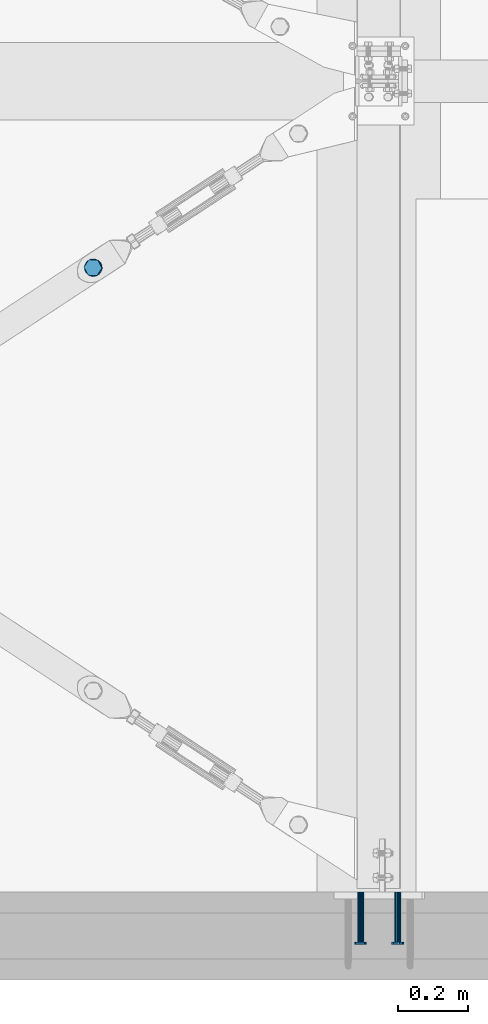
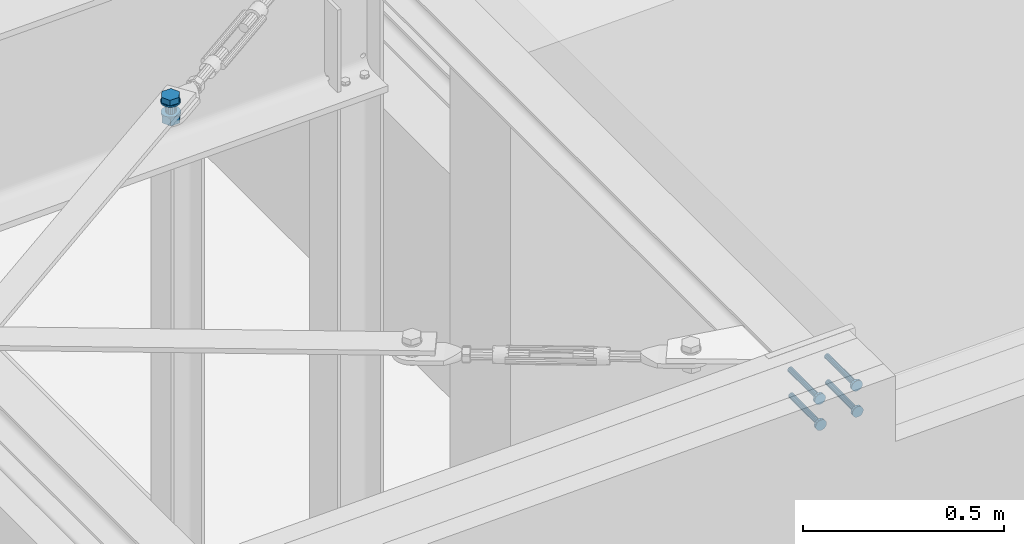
# One storey, part 138 of 476: 5 mechanical fasteners.
"""IFC2X3 building model written with IfcOpenShell, lengths in millimetres."""

from ifc_helpers import new_model, entity, si_unit, converted_unit, origin_with_axes, place, context, project, spatial, faceted_brep, element, save


model = new_model("IFC2X3")

# Units and contexts
model_context = context("Model", 3, precision=1e-09, world=origin_with_axes())
ifc_project = project(units=[si_unit("LENGTHUNIT", "METRE", prefix="MILLI"), si_unit("AREAUNIT", "SQUARE_METRE"), si_unit("VOLUMEUNIT", "CUBIC_METRE"), converted_unit("PLANEANGLEUNIT", "DEGREE", entity("IfcPlaneAngleMeasure", 0.01745329), si_unit("PLANEANGLEUNIT", "RADIAN"), dimensions=[0, 0, 0, 0, 0, 0, 0])], contexts=[model_context])

# Site, building, storey
site_placement = place(None, origin_with_axes())
site = spatial("IfcSite", under=ifc_project, at=site_placement, Name="mKR Teilneubau & Sanierung BA1 - Ostfildern", CompositionType="ELEMENT")
building_placement = place(site_placement, origin_with_axes())
building = spatial("IfcBuilding", under=site, at=building_placement, Name="Struktur 1", CompositionType="ELEMENT")
storey_placement = place(building_placement, origin_with_axes())
storey = spatial("IfcBuildingStorey", under=building, at=storey_placement, Name="Default Storey", CompositionType="ELEMENT", Elevation=0.0)

# Mechanical fasteners
mechanical_fastener_1_placement = place(None, origin_with_axes())
element("IfcMechanicalFastener", 1, at=mechanical_fastener_1_placement, inside=storey, ObjectType="-", NominalDiameter=27.0, NominalLength=70.0, context=model_context, shape_type="Brep", body=[
    faceted_brep([(21174.404552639, -21769.505154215, 5625.311052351), (21174.554762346, -21769.505154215, 5620.313309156), (21176.827110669, -21765.163476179, 5620.381605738), (21176.676900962, -21765.163476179, 5625.379348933), (21178.209159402, -21760.461708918, 5620.423143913), (21178.058949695, -21760.461708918, 5625.420887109), (21178.647797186, -21755.580538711, 5620.436327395), (21178.497587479, -21755.580538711, 5625.43407059), (21178.126167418, -21750.707546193, 5620.420649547), (21177.975957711, -21750.707546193, 5625.418392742), (21176.664316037, -21746.029997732, 5620.376712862), (21176.51410633, -21746.029997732, 5625.374456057), (21174.318421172, -21741.727648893, 5620.306205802), (21174.168211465, -21741.727648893, 5625.303948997), (21171.178634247, -21737.965836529, 5620.211837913), (21171.02842454, -21737.965836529, 5625.209581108), (21167.365615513, -21734.889124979, 5620.0972357), (21167.215405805, -21734.889124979, 5625.094978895), (21163.02589714, -21732.615750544, 5619.966803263), (21162.875687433, -21732.615750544, 5624.964546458), (21158.326252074, -21731.233077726, 5619.825553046), (21158.176042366, -21731.233077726, 5624.823296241), (21153.447285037, -21730.794241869, 5619.678913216), (21153.297075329, -21730.794241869, 5624.676656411), (21148.576491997, -21731.316107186, 5619.53251906), (21148.42628229, -21731.316107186, 5624.530262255), (21143.901054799, -21732.778618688, 5619.391996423), (21143.750845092, -21732.778618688, 5624.389739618), (21139.600647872, -21735.125572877, 5619.262745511), (21139.450438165, -21735.125572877, 5624.260488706), (21135.840533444, -21738.266777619, 5619.149733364), (21135.690323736, -21738.266777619, 5624.14747656), (21132.765210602, -21742.081518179, 5619.057302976), (21132.615000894, -21742.081518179, 5624.055046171), (21130.492862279, -21746.423196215, 5618.989006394), (21130.342652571, -21746.423196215, 5623.98674959), (21129.110813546, -21751.124963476, 5618.947468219), (21128.960603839, -21751.124963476, 5623.945211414), (21128.672175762, -21756.006133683, 5618.934284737), (21128.521966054, -21756.006133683, 5623.932027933), (21129.19380553, -21760.879126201, 5618.949962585), (21129.043595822, -21760.879126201, 5623.94770578), (21130.655656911, -21765.556674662, 5618.99389927), (21130.505447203, -21765.556674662, 5623.991642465), (21133.001551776, -21769.859023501, 5619.06440633), (21132.851342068, -21769.859023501, 5624.062149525), (21136.141338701, -21773.620835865, 5619.158774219), (21135.991128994, -21773.620835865, 5624.156517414), (21139.954357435, -21776.697547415, 5619.273376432), (21139.804147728, -21776.697547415, 5624.271119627), (21144.294075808, -21778.97092185, 5619.403808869), (21144.1438661, -21778.97092185, 5624.401552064), (21148.993720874, -21780.353594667, 5619.545059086), (21148.843511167, -21780.353594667, 5624.542802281), (21153.872687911, -21780.792430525, 5619.691698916), (21153.722478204, -21780.792430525, 5624.689442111), (21158.743480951, -21780.270565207, 5619.838093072), (21158.593271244, -21780.270565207, 5624.835836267), (21163.418918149, -21778.808053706, 5619.978615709), (21163.268708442, -21778.808053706, 5624.976358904), (21167.719325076, -21776.461099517, 5620.107866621), (21167.569115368, -21776.461099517, 5625.105609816), (21171.479439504, -21773.319894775, 5620.220878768), (21171.329229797, -21773.319894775, 5625.218621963)], [[[0, 1, 2, 3]], [[3, 2, 4, 5]], [[5, 4, 6, 7]], [[7, 6, 8, 9]], [[9, 8, 10, 11]], [[11, 10, 12, 13]], [[13, 12, 14, 15]], [[15, 14, 16, 17]], [[17, 16, 18, 19]], [[19, 18, 20, 21]], [[21, 20, 22, 23]], [[23, 22, 24, 25]], [[25, 24, 26, 27]], [[27, 26, 28, 29]], [[29, 28, 30, 31]], [[31, 30, 32, 33]], [[33, 32, 34, 35]], [[35, 34, 36, 37]], [[37, 36, 38, 39]], [[39, 38, 40, 41]], [[41, 40, 42, 43]], [[43, 42, 44, 45]], [[45, 44, 46, 47]], [[47, 46, 48, 49]], [[49, 48, 50, 51]], [[51, 50, 52, 53]], [[53, 52, 54, 55]], [[55, 54, 56, 57]], [[57, 56, 58, 59]], [[59, 58, 60, 61]], [[61, 60, 62, 63]], [[63, 62, 1, 0]], [[0, 3, 5, 7, 9, 11, 13, 15, 17, 19, 21, 23, 25, 27, 29, 31, 33, 35, 37, 39, 41, 43, 45, 47, 49, 51, 53, 55, 57, 59, 61, 63]], [[1, 62, 60, 58, 56, 54, 52, 50, 48, 46, 44, 42, 40, 38, 36, 34, 32, 30, 28, 26, 24, 22, 20, 18, 16, 14, 12, 10, 8, 6, 4, 2]]]),
    faceted_brep([(21142.076060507, -21733.08689075, 5624.339403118), (21141.565347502, -21733.08689075, 5641.331729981), (21166.937688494, -21734.533753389, 5642.094308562), (21167.448401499, -21734.533753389, 5625.101981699), (21178.371404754, -21757.240198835, 5642.437954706), (21178.882117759, -21757.240198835, 5625.445627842), (21164.432780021, -21778.499781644, 5642.019022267), (21164.943493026, -21778.499781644, 5625.026695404), (21139.060439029, -21777.052919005, 5641.256443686), (21139.571152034, -21777.052919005, 5624.264116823), (21127.62672277, -21754.346473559, 5640.912797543), (21128.137435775, -21754.346473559, 5623.92047068)], [[[0, 1, 2, 3]], [[3, 2, 4, 5]], [[5, 4, 6, 7]], [[7, 6, 8, 9]], [[9, 8, 10, 11]], [[11, 10, 1, 0]], [[4, 2, 1, 10, 8, 6]], [[0, 3, 5, 7, 9, 11]]]),
    faceted_brep([(21164.943174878, -21763.197717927, 5620.024113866), (21165.844423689, -21763.197717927, 5590.037968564), (21167.817798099, -21758.314257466, 5590.097279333), (21166.916549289, -21758.314257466, 5620.083424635), (21167.772982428, -21753.047009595, 5590.095932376), (21166.871733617, -21753.047009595, 5620.082077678), (21165.716799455, -21748.197865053, 5590.034132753), (21164.815550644, -21748.197865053, 5620.020278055), (21161.962284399, -21744.505062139, 5589.921288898), (21161.061035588, -21744.505062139, 5619.9074342), (21157.081028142, -21742.530796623, 5589.774580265), (21156.179779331, -21742.530796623, 5619.760725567), (21151.8161577, -21742.575632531, 5589.616341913), (21150.91490889, -21742.575632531, 5619.602487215), (21146.969201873, -21744.632744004, 5589.470664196), (21146.067953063, -21744.632744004, 5619.456809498), (21143.278065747, -21748.388954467, 5589.359725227), (21142.376816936, -21748.388954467, 5619.345870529), (21141.304691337, -21753.272414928, 5589.300414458), (21140.403442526, -21753.272414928, 5619.28655976), (21141.349507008, -21758.539662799, 5589.301761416), (21140.448258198, -21758.539662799, 5619.287906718), (21143.405689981, -21763.388807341, 5589.363561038), (21142.50444117, -21763.388807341, 5619.34970634), (21147.160205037, -21767.081610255, 5589.476404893), (21146.258956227, -21767.081610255, 5619.462550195), (21152.041461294, -21769.055875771, 5589.623113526), (21151.140212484, -21769.055875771, 5619.609258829), (21157.306331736, -21769.011039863, 5589.781351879), (21156.405082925, -21769.011039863, 5619.767497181), (21162.153287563, -21766.95392839, 5589.927029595), (21161.252038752, -21766.95392839, 5619.913174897)], [[[0, 1, 2, 3]], [[3, 2, 4, 5]], [[5, 4, 6, 7]], [[7, 6, 8, 9]], [[9, 8, 10, 11]], [[11, 10, 12, 13]], [[13, 12, 14, 15]], [[15, 14, 16, 17]], [[17, 16, 18, 19]], [[19, 18, 20, 21]], [[21, 20, 22, 23]], [[23, 22, 24, 25]], [[25, 24, 26, 27]], [[27, 26, 28, 29]], [[29, 28, 30, 31]], [[31, 30, 1, 0]], [[0, 3, 5, 7, 9, 11, 13, 15, 17, 19, 21, 23, 25, 27, 29, 31]], [[1, 30, 28, 26, 24, 22, 20, 18, 16, 14, 12, 10, 8, 6, 4, 2]]]),
    faceted_brep([(21175.45602059, -21769.505154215, 5590.326849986), (21175.606230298, -21769.505154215, 5585.32910679), (21177.878578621, -21765.163476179, 5585.397403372), (21177.728368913, -21765.163476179, 5590.395146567), (21179.260627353, -21760.461708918, 5585.438941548), (21179.110417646, -21760.461708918, 5590.436684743), (21179.699265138, -21755.580538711, 5585.452125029), (21179.54905543, -21755.580538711, 5590.449868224), (21179.17763537, -21750.707546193, 5585.436447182), (21179.027425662, -21750.707546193, 5590.434190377), (21177.715783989, -21746.029997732, 5585.392510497), (21177.565574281, -21746.029997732, 5590.390253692), (21175.369889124, -21741.727648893, 5585.322003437), (21175.219679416, -21741.727648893, 5590.319746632), (21172.230102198, -21737.965836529, 5585.227635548), (21172.079892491, -21737.965836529, 5590.225378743), (21168.417083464, -21734.889124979, 5585.113033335), (21168.266873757, -21734.889124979, 5590.11077653), (21164.077365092, -21732.615750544, 5584.982600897), (21163.927155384, -21732.615750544, 5589.980344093), (21159.377720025, -21731.233077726, 5584.841350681), (21159.227510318, -21731.233077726, 5589.839093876), (21154.498752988, -21730.794241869, 5584.694710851), (21154.348543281, -21730.794241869, 5589.692454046), (21149.627959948, -21731.316107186, 5584.548316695), (21149.477750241, -21731.316107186, 5589.54605989), (21144.95252275, -21732.778618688, 5584.407794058), (21144.802313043, -21732.778618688, 5589.405537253), (21140.652115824, -21735.125572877, 5584.278543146), (21140.501906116, -21735.125572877, 5589.276286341), (21136.892001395, -21738.266777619, 5584.165530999), (21136.741791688, -21738.266777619, 5589.163274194), (21133.816678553, -21742.081518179, 5584.073100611), (21133.666468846, -21742.081518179, 5589.070843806), (21131.54433023, -21746.423196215, 5584.004804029), (21131.394120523, -21746.423196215, 5589.002547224), (21130.162281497, -21751.124963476, 5583.963265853), (21130.01207179, -21751.124963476, 5588.961009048), (21129.723643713, -21756.006133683, 5583.950082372), (21129.573434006, -21756.006133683, 5588.947825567), (21130.245273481, -21760.879126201, 5583.965760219), (21130.095063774, -21760.879126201, 5588.963503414), (21131.707124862, -21765.556674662, 5584.009696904), (21131.556915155, -21765.556674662, 5589.007440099), (21134.053019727, -21769.859023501, 5584.080203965), (21133.90281002, -21769.859023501, 5589.07794716), (21137.192806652, -21773.620835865, 5584.174571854), (21137.042596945, -21773.620835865, 5589.172315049), (21141.005825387, -21776.697547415, 5584.289174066), (21140.855615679, -21776.697547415, 5589.286917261), (21145.345543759, -21778.97092185, 5584.419606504), (21145.195334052, -21778.97092185, 5589.417349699), (21150.045188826, -21780.353594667, 5584.560856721), (21149.894979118, -21780.353594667, 5589.558599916), (21154.924155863, -21780.792430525, 5584.70749655), (21154.773946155, -21780.792430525, 5589.705239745), (21159.794948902, -21780.270565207, 5584.853890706), (21159.644739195, -21780.270565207, 5589.851633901), (21164.4703861, -21778.808053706, 5584.994413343), (21164.320176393, -21778.808053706, 5589.992156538), (21168.770793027, -21776.461099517, 5585.123664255), (21168.62058332, -21776.461099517, 5590.12140745), (21172.530907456, -21773.319894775, 5585.236676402), (21172.380697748, -21773.319894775, 5590.234419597)], [[[0, 1, 2, 3]], [[3, 2, 4, 5]], [[5, 4, 6, 7]], [[7, 6, 8, 9]], [[9, 8, 10, 11]], [[11, 10, 12, 13]], [[13, 12, 14, 15]], [[15, 14, 16, 17]], [[17, 16, 18, 19]], [[19, 18, 20, 21]], [[21, 20, 22, 23]], [[23, 22, 24, 25]], [[25, 24, 26, 27]], [[27, 26, 28, 29]], [[29, 28, 30, 31]], [[31, 30, 32, 33]], [[33, 32, 34, 35]], [[35, 34, 36, 37]], [[37, 36, 38, 39]], [[39, 38, 40, 41]], [[41, 40, 42, 43]], [[43, 42, 44, 45]], [[45, 44, 46, 47]], [[47, 46, 48, 49]], [[49, 48, 50, 51]], [[51, 50, 52, 53]], [[53, 52, 54, 55]], [[55, 54, 56, 57]], [[57, 56, 58, 59]], [[59, 58, 60, 61]], [[61, 60, 62, 63]], [[63, 62, 1, 0]], [[0, 3, 5, 7, 9, 11, 13, 15, 17, 19, 21, 23, 25, 27, 29, 31, 33, 35, 37, 39, 41, 43, 45, 47, 49, 51, 53, 55, 57, 59, 61, 63]], [[1, 62, 60, 58, 56, 54, 52, 50, 48, 46, 44, 42, 40, 38, 36, 34, 32, 30, 28, 26, 24, 22, 20, 18, 16, 14, 12, 10, 8, 6, 4, 2]]]),
    faceted_brep([(21143.904933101, -21733.019910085, 5562.366373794), (21143.244010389, -21733.019910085, 5584.356443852), (21168.691196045, -21734.471040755, 5585.121271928), (21169.352118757, -21734.471040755, 5563.131201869), (21180.158640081, -21757.244466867, 5585.465931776), (21180.819562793, -21757.244466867, 5563.475861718), (21166.178898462, -21778.566762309, 5585.045763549), (21166.839821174, -21778.566762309, 5563.055693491), (21140.731712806, -21777.115631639, 5584.280935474), (21141.392635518, -21777.115631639, 5562.290865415), (21129.26426877, -21754.342205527, 5583.936275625), (21129.925191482, -21754.342205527, 5561.946205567)], [[[0, 1, 2, 3]], [[3, 2, 4, 5]], [[5, 4, 6, 7]], [[7, 6, 8, 9]], [[9, 8, 10, 11]], [[11, 10, 1, 0]], [[4, 2, 1, 10, 8, 6]], [[0, 3, 5, 7, 9, 11]]]),
    faceted_brep([(21166.655546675, -21763.197717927, 5563.050469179), (21166.89589164, -21763.197717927, 5555.053766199), (21168.869266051, -21758.314257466, 5555.113076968), (21168.628921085, -21758.314257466, 5563.109779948), (21168.824450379, -21753.047009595, 5555.11173001), (21168.584105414, -21753.047009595, 5563.10843299), (21166.768267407, -21748.197865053, 5555.049930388), (21166.527922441, -21748.197865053, 5563.046633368), (21163.01375235, -21744.505062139, 5554.937086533), (21162.773407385, -21744.505062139, 5562.933789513), (21158.132496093, -21742.530796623, 5554.790377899), (21157.892151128, -21742.530796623, 5562.78708088), (21152.867625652, -21742.575632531, 5554.632139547), (21152.627280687, -21742.575632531, 5562.628842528), (21148.020669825, -21744.632744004, 5554.486461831), (21147.780324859, -21744.632744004, 5562.483164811), (21144.329533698, -21748.388954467, 5554.375522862), (21144.089188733, -21748.388954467, 5562.372225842), (21142.356159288, -21753.272414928, 5554.316212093), (21142.115814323, -21753.272414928, 5562.312915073), (21142.40097496, -21758.539662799, 5554.31755905), (21142.160629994, -21758.539662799, 5562.314262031), (21144.457157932, -21763.388807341, 5554.379358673), (21144.216812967, -21763.388807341, 5562.376061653), (21148.211672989, -21767.081610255, 5554.492202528), (21147.971328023, -21767.081610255, 5562.488905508), (21153.092929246, -21769.055875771, 5554.638911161), (21152.85258428, -21769.055875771, 5562.635614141), (21158.357799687, -21769.011039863, 5554.797149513), (21158.117454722, -21769.011039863, 5562.793852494), (21163.204755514, -21766.95392839, 5554.94282723), (21162.964410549, -21766.95392839, 5562.93953021)], [[[0, 1, 2, 3]], [[3, 2, 4, 5]], [[5, 4, 6, 7]], [[7, 6, 8, 9]], [[9, 8, 10, 11]], [[11, 10, 12, 13]], [[13, 12, 14, 15]], [[15, 14, 16, 17]], [[17, 16, 18, 19]], [[19, 18, 20, 21]], [[21, 20, 22, 23]], [[23, 22, 24, 25]], [[25, 24, 26, 27]], [[27, 26, 28, 29]], [[29, 28, 30, 31]], [[31, 30, 1, 0]], [[0, 3, 5, 7, 9, 11, 13, 15, 17, 19, 21, 23, 25, 27, 29, 31]], [[1, 30, 28, 26, 24, 22, 20, 18, 16, 14, 12, 10, 8, 6, 4, 2]]]),
])
mechanical_fastener_2_placement = place(None, origin_with_axes())
element("IfcMechanicalFastener", 2, at=mechanical_fastener_2_placement, inside=storey, ObjectType="-", NominalDiameter=16.0, NominalLength=150.0, context=model_context, shape_type="Brep", body=[
    faceted_brep([(21904.335924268, -23671.67387897, 5615.149142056), (21904.335924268, -23529.67387897, 5615.149142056), (21905.036585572, -23529.67387897, 5612.107350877), (21905.036585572, -23671.67387897, 5612.107350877), (21906.847955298, -23529.67387897, 5609.565233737), (21906.847955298, -23671.67387897, 5609.565233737), (21909.494268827, -23529.67387897, 5607.909804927), (21909.494268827, -23671.67387897, 5607.909804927), (21912.572648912, -23529.67387897, 5607.393088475), (21912.572648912, -23671.67387897, 5607.393088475), (21915.614440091, -23529.67387897, 5608.093749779), (21915.614440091, -23671.67387897, 5608.093749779), (21918.156557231, -23529.67387897, 5609.905119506), (21918.156557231, -23671.67387897, 5609.905119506), (21919.811986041, -23529.67387897, 5612.551433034), (21919.811986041, -23671.67387897, 5612.551433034), (21920.328702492, -23529.67387897, 5615.629813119), (21920.328702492, -23671.67387897, 5615.629813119), (21919.628041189, -23529.67387897, 5618.671604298), (21919.628041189, -23671.67387897, 5618.671604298), (21917.816671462, -23529.67387897, 5621.213721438), (21917.816671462, -23671.67387897, 5621.213721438), (21915.170357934, -23529.67387897, 5622.869150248), (21915.170357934, -23671.67387897, 5622.869150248), (21912.091977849, -23529.67387897, 5623.3858667), (21912.091977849, -23671.67387897, 5623.3858667), (21909.05018667, -23529.67387897, 5622.685205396), (21909.05018667, -23671.67387897, 5622.685205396), (21906.50806953, -23529.67387897, 5620.873835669), (21906.50806953, -23671.67387897, 5620.873835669), (21904.852640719, -23529.67387897, 5618.227522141), (21904.852640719, -23671.67387897, 5618.227522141)], [[[0, 1, 2, 3]], [[3, 2, 4, 5]], [[5, 4, 6, 7]], [[7, 6, 8, 9]], [[9, 8, 10, 11]], [[11, 10, 12, 13]], [[13, 12, 14, 15]], [[15, 14, 16, 17]], [[17, 16, 18, 19]], [[19, 18, 20, 21]], [[21, 20, 22, 23]], [[23, 22, 24, 25]], [[25, 24, 26, 27]], [[27, 26, 28, 29]], [[29, 28, 30, 31]], [[31, 30, 1, 0]], [[0, 3, 5, 7, 9, 11, 13, 15, 17, 19, 21, 23, 25, 27, 29, 31]], [[1, 30, 28, 26, 24, 22, 20, 18, 16, 14, 12, 10, 8, 6, 4, 2]]]),
    faceted_brep([(21896.339535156, -23679.67387897, 5614.908806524), (21896.339535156, -23671.67387897, 5614.908806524), (21897.740857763, -23671.67387897, 5608.825224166), (21897.740857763, -23679.67387897, 5608.825224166), (21901.363597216, -23671.67387897, 5603.740989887), (21901.363597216, -23679.67387897, 5603.740989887), (21906.656224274, -23671.67387897, 5600.430132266), (21906.656224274, -23679.67387897, 5600.430132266), (21912.812984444, -23671.67387897, 5599.396699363), (21912.812984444, -23679.67387897, 5599.396699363), (21918.896566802, -23671.67387897, 5600.798021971), (21918.896566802, -23679.67387897, 5600.798021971), (21923.980801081, -23671.67387897, 5604.420761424), (21923.980801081, -23679.67387897, 5604.420761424), (21927.291658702, -23671.67387897, 5609.713388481), (21927.291658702, -23679.67387897, 5609.713388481), (21928.325091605, -23671.67387897, 5615.870148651), (21928.325091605, -23679.67387897, 5615.870148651), (21926.923768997, -23671.67387897, 5621.953731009), (21926.923768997, -23679.67387897, 5621.953731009), (21923.301029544, -23671.67387897, 5627.037965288), (21923.301029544, -23679.67387897, 5627.037965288), (21918.008402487, -23671.67387897, 5630.348822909), (21918.008402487, -23679.67387897, 5630.348822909), (21911.851642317, -23671.67387897, 5631.382255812), (21911.851642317, -23679.67387897, 5631.382255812), (21905.768059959, -23671.67387897, 5629.980933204), (21905.768059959, -23679.67387897, 5629.980933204), (21900.683825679, -23671.67387897, 5626.358193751), (21900.683825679, -23679.67387897, 5626.358193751), (21897.372968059, -23671.67387897, 5621.065566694), (21897.372968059, -23679.67387897, 5621.065566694)], [[[0, 1, 2, 3]], [[3, 2, 4, 5]], [[5, 4, 6, 7]], [[7, 6, 8, 9]], [[9, 8, 10, 11]], [[11, 10, 12, 13]], [[13, 12, 14, 15]], [[15, 14, 16, 17]], [[17, 16, 18, 19]], [[19, 18, 20, 21]], [[21, 20, 22, 23]], [[23, 22, 24, 25]], [[25, 24, 26, 27]], [[27, 26, 28, 29]], [[29, 28, 30, 31]], [[31, 30, 1, 0]], [[0, 3, 5, 7, 9, 11, 13, 15, 17, 19, 21, 23, 25, 27, 29, 31]], [[1, 30, 28, 26, 24, 22, 20, 18, 16, 14, 12, 10, 8, 6, 4, 2]]]),
])
mechanical_fastener_3_placement = place(None, origin_with_axes())
element("IfcMechanicalFastener", 3, at=mechanical_fastener_3_placement, inside=storey, ObjectType="-", NominalDiameter=16.0, NominalLength=150.0, context=model_context, shape_type="Brep", body=[
    faceted_brep([(22010.288080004, -23671.67387897, 5618.333587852), (22010.288080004, -23529.67387897, 5618.333587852), (22010.988741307, -23529.67387897, 5615.291796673), (22010.988741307, -23671.67387897, 5615.291796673), (22012.800111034, -23529.67387897, 5612.749679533), (22012.800111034, -23671.67387897, 5612.749679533), (22015.446424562, -23529.67387897, 5611.094250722), (22015.446424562, -23671.67387897, 5611.094250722), (22018.524804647, -23529.67387897, 5610.577534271), (22018.524804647, -23671.67387897, 5610.577534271), (22021.566595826, -23529.67387897, 5611.278195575), (22021.566595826, -23671.67387897, 5611.278195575), (22024.108712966, -23529.67387897, 5613.089565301), (22024.108712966, -23671.67387897, 5613.089565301), (22025.764141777, -23529.67387897, 5615.73587883), (22025.764141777, -23671.67387897, 5615.73587883), (22026.280858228, -23529.67387897, 5618.814258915), (22026.280858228, -23671.67387897, 5618.814258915), (22025.580196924, -23529.67387897, 5621.856050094), (22025.580196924, -23671.67387897, 5621.856050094), (22023.768827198, -23529.67387897, 5624.398167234), (22023.768827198, -23671.67387897, 5624.398167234), (22021.122513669, -23529.67387897, 5626.053596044), (22021.122513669, -23671.67387897, 5626.053596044), (22018.044133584, -23529.67387897, 5626.570312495), (22018.044133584, -23671.67387897, 5626.570312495), (22015.002342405, -23529.67387897, 5625.869651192), (22015.002342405, -23671.67387897, 5625.869651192), (22012.460225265, -23529.67387897, 5624.058281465), (22012.460225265, -23671.67387897, 5624.058281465), (22010.804796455, -23529.67387897, 5621.411967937), (22010.804796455, -23671.67387897, 5621.411967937)], [[[0, 1, 2, 3]], [[3, 2, 4, 5]], [[5, 4, 6, 7]], [[7, 6, 8, 9]], [[9, 8, 10, 11]], [[11, 10, 12, 13]], [[13, 12, 14, 15]], [[15, 14, 16, 17]], [[17, 16, 18, 19]], [[19, 18, 20, 21]], [[21, 20, 22, 23]], [[23, 22, 24, 25]], [[25, 24, 26, 27]], [[27, 26, 28, 29]], [[29, 28, 30, 31]], [[31, 30, 1, 0]], [[0, 3, 5, 7, 9, 11, 13, 15, 17, 19, 21, 23, 25, 27, 29, 31]], [[1, 30, 28, 26, 24, 22, 20, 18, 16, 14, 12, 10, 8, 6, 4, 2]]]),
    faceted_brep([(22002.291690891, -23679.67387897, 5618.09325232), (22002.291690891, -23671.67387897, 5618.09325232), (22003.693013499, -23671.67387897, 5612.009669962), (22003.693013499, -23679.67387897, 5612.009669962), (22007.315752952, -23671.67387897, 5606.925435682), (22007.315752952, -23679.67387897, 5606.925435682), (22012.608380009, -23671.67387897, 5603.614578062), (22012.608380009, -23679.67387897, 5603.614578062), (22018.765140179, -23671.67387897, 5602.581145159), (22018.765140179, -23679.67387897, 5602.581145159), (22024.848722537, -23671.67387897, 5603.982467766), (22024.848722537, -23679.67387897, 5603.982467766), (22029.932956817, -23671.67387897, 5607.605207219), (22029.932956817, -23679.67387897, 5607.605207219), (22033.243814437, -23671.67387897, 5612.897834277), (22033.243814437, -23679.67387897, 5612.897834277), (22034.27724734, -23671.67387897, 5619.054594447), (22034.27724734, -23679.67387897, 5619.054594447), (22032.875924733, -23671.67387897, 5625.138176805), (22032.875924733, -23679.67387897, 5625.138176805), (22029.253185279, -23671.67387897, 5630.222411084), (22029.253185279, -23679.67387897, 5630.222411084), (22023.960558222, -23671.67387897, 5633.533268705), (22023.960558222, -23679.67387897, 5633.533268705), (22017.803798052, -23671.67387897, 5634.566701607), (22017.803798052, -23679.67387897, 5634.566701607), (22011.720215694, -23671.67387897, 5633.165379), (22011.720215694, -23679.67387897, 5633.165379), (22006.635981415, -23671.67387897, 5629.542639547), (22006.635981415, -23679.67387897, 5629.542639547), (22003.325123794, -23671.67387897, 5624.25001249), (22003.325123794, -23679.67387897, 5624.25001249)], [[[0, 1, 2, 3]], [[3, 2, 4, 5]], [[5, 4, 6, 7]], [[7, 6, 8, 9]], [[9, 8, 10, 11]], [[11, 10, 12, 13]], [[13, 12, 14, 15]], [[15, 14, 16, 17]], [[17, 16, 18, 19]], [[19, 18, 20, 21]], [[21, 20, 22, 23]], [[23, 22, 24, 25]], [[25, 24, 26, 27]], [[27, 26, 28, 29]], [[29, 28, 30, 31]], [[31, 30, 1, 0]], [[0, 3, 5, 7, 9, 11, 13, 15, 17, 19, 21, 23, 25, 27, 29, 31]], [[1, 30, 28, 26, 24, 22, 20, 18, 16, 14, 12, 10, 8, 6, 4, 2]]]),
])
mechanical_fastener_4_placement = place(None, origin_with_axes())
element("IfcMechanicalFastener", 4, at=mechanical_fastener_4_placement, inside=storey, ObjectType="-", NominalDiameter=16.0, NominalLength=150.0, context=model_context, shape_type="Brep", body=[
    faceted_brep([(22012.691435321, -23671.67387897, 5538.36969673), (22012.691435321, -23529.67387897, 5538.36969673), (22013.392096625, -23529.67387897, 5535.327905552), (22013.392096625, -23671.67387897, 5535.327905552), (22015.203466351, -23529.67387897, 5532.785788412), (22015.203466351, -23671.67387897, 5532.785788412), (22017.84977988, -23529.67387897, 5531.130359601), (22017.84977988, -23671.67387897, 5531.130359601), (22020.928159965, -23529.67387897, 5530.61364315), (22020.928159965, -23671.67387897, 5530.61364315), (22023.969951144, -23529.67387897, 5531.314304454), (22023.969951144, -23671.67387897, 5531.314304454), (22026.512068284, -23529.67387897, 5533.12567418), (22026.512068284, -23671.67387897, 5533.12567418), (22028.167497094, -23529.67387897, 5535.771987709), (22028.167497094, -23671.67387897, 5535.771987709), (22028.684213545, -23529.67387897, 5538.850367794), (22028.684213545, -23671.67387897, 5538.850367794), (22027.983552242, -23529.67387897, 5541.892158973), (22027.983552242, -23671.67387897, 5541.892158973), (22026.172182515, -23529.67387897, 5544.434276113), (22026.172182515, -23671.67387897, 5544.434276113), (22023.525868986, -23529.67387897, 5546.089704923), (22023.525868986, -23671.67387897, 5546.089704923), (22020.447488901, -23529.67387897, 5546.606421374), (22020.447488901, -23671.67387897, 5546.606421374), (22017.405697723, -23529.67387897, 5545.905760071), (22017.405697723, -23671.67387897, 5545.905760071), (22014.863580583, -23529.67387897, 5544.094390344), (22014.863580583, -23671.67387897, 5544.094390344), (22013.208151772, -23529.67387897, 5541.448076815), (22013.208151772, -23671.67387897, 5541.448076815)], [[[0, 1, 2, 3]], [[3, 2, 4, 5]], [[5, 4, 6, 7]], [[7, 6, 8, 9]], [[9, 8, 10, 11]], [[11, 10, 12, 13]], [[13, 12, 14, 15]], [[15, 14, 16, 17]], [[17, 16, 18, 19]], [[19, 18, 20, 21]], [[21, 20, 22, 23]], [[23, 22, 24, 25]], [[25, 24, 26, 27]], [[27, 26, 28, 29]], [[29, 28, 30, 31]], [[31, 30, 1, 0]], [[0, 3, 5, 7, 9, 11, 13, 15, 17, 19, 21, 23, 25, 27, 29, 31]], [[1, 30, 28, 26, 24, 22, 20, 18, 16, 14, 12, 10, 8, 6, 4, 2]]]),
    faceted_brep([(22004.695046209, -23679.67387897, 5538.129361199), (22004.695046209, -23671.67387897, 5538.129361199), (22006.096368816, -23671.67387897, 5532.045778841), (22006.096368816, -23679.67387897, 5532.045778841), (22009.719108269, -23671.67387897, 5526.961544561), (22009.719108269, -23679.67387897, 5526.961544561), (22015.011735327, -23671.67387897, 5523.65068694), (22015.011735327, -23679.67387897, 5523.65068694), (22021.168495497, -23671.67387897, 5522.617254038), (22021.168495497, -23679.67387897, 5522.617254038), (22027.252077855, -23671.67387897, 5524.018576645), (22027.252077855, -23679.67387897, 5524.018576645), (22032.336312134, -23671.67387897, 5527.641316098), (22032.336312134, -23679.67387897, 5527.641316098), (22035.647169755, -23671.67387897, 5532.933943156), (22035.647169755, -23679.67387897, 5532.933943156), (22036.680602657, -23671.67387897, 5539.090703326), (22036.680602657, -23679.67387897, 5539.090703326), (22035.27928005, -23671.67387897, 5545.174285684), (22035.27928005, -23679.67387897, 5545.174285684), (22031.656540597, -23671.67387897, 5550.258519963), (22031.656540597, -23679.67387897, 5550.258519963), (22026.36391354, -23671.67387897, 5553.569377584), (22026.36391354, -23679.67387897, 5553.569377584), (22020.20715337, -23671.67387897, 5554.602810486), (22020.20715337, -23679.67387897, 5554.602810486), (22014.123571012, -23671.67387897, 5553.201487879), (22014.123571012, -23679.67387897, 5553.201487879), (22009.039336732, -23671.67387897, 5549.578748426), (22009.039336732, -23679.67387897, 5549.578748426), (22005.728479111, -23671.67387897, 5544.286121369), (22005.728479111, -23679.67387897, 5544.286121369)], [[[0, 1, 2, 3]], [[3, 2, 4, 5]], [[5, 4, 6, 7]], [[7, 6, 8, 9]], [[9, 8, 10, 11]], [[11, 10, 12, 13]], [[13, 12, 14, 15]], [[15, 14, 16, 17]], [[17, 16, 18, 19]], [[19, 18, 20, 21]], [[21, 20, 22, 23]], [[23, 22, 24, 25]], [[25, 24, 26, 27]], [[27, 26, 28, 29]], [[29, 28, 30, 31]], [[31, 30, 1, 0]], [[0, 3, 5, 7, 9, 11, 13, 15, 17, 19, 21, 23, 25, 27, 29, 31]], [[1, 30, 28, 26, 24, 22, 20, 18, 16, 14, 12, 10, 8, 6, 4, 2]]]),
])
mechanical_fastener_5_placement = place(None, origin_with_axes())
element("IfcMechanicalFastener", 5, at=mechanical_fastener_5_placement, inside=storey, ObjectType="-", NominalDiameter=16.0, NominalLength=150.0, context=model_context, shape_type="Brep", body=[
    faceted_brep([(21906.953199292, -23671.67387897, 5535.1916804), (21906.953199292, -23529.67387897, 5535.1916804), (21907.653860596, -23529.67387897, 5532.149889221), (21907.653860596, -23671.67387897, 5532.149889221), (21909.465230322, -23529.67387897, 5529.607772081), (21909.465230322, -23671.67387897, 5529.607772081), (21912.111543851, -23529.67387897, 5527.952343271), (21912.111543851, -23671.67387897, 5527.952343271), (21915.189923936, -23529.67387897, 5527.43562682), (21915.189923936, -23671.67387897, 5527.43562682), (21918.231715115, -23529.67387897, 5528.136288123), (21918.231715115, -23671.67387897, 5528.136288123), (21920.773832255, -23529.67387897, 5529.94765785), (21920.773832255, -23671.67387897, 5529.94765785), (21922.429261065, -23529.67387897, 5532.593971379), (21922.429261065, -23671.67387897, 5532.593971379), (21922.945977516, -23529.67387897, 5535.672351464), (21922.945977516, -23671.67387897, 5535.672351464), (21922.245316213, -23529.67387897, 5538.714142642), (21922.245316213, -23671.67387897, 5538.714142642), (21920.433946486, -23529.67387897, 5541.256259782), (21920.433946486, -23671.67387897, 5541.256259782), (21917.787632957, -23529.67387897, 5542.911688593), (21917.787632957, -23671.67387897, 5542.911688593), (21914.709252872, -23529.67387897, 5543.428405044), (21914.709252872, -23671.67387897, 5543.428405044), (21911.667461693, -23529.67387897, 5542.72774374), (21911.667461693, -23671.67387897, 5542.72774374), (21909.125344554, -23529.67387897, 5540.916374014), (21909.125344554, -23671.67387897, 5540.916374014), (21907.469915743, -23529.67387897, 5538.270060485), (21907.469915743, -23671.67387897, 5538.270060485)], [[[0, 1, 2, 3]], [[3, 2, 4, 5]], [[5, 4, 6, 7]], [[7, 6, 8, 9]], [[9, 8, 10, 11]], [[11, 10, 12, 13]], [[13, 12, 14, 15]], [[15, 14, 16, 17]], [[17, 16, 18, 19]], [[19, 18, 20, 21]], [[21, 20, 22, 23]], [[23, 22, 24, 25]], [[25, 24, 26, 27]], [[27, 26, 28, 29]], [[29, 28, 30, 31]], [[31, 30, 1, 0]], [[0, 3, 5, 7, 9, 11, 13, 15, 17, 19, 21, 23, 25, 27, 29, 31]], [[1, 30, 28, 26, 24, 22, 20, 18, 16, 14, 12, 10, 8, 6, 4, 2]]]),
    faceted_brep([(21898.95681018, -23679.67387897, 5534.951344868), (21898.95681018, -23671.67387897, 5534.951344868), (21900.358132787, -23671.67387897, 5528.86776251), (21900.358132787, -23679.67387897, 5528.86776251), (21903.98087224, -23671.67387897, 5523.783528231), (21903.98087224, -23679.67387897, 5523.783528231), (21909.273499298, -23671.67387897, 5520.47267061), (21909.273499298, -23679.67387897, 5520.47267061), (21915.430259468, -23671.67387897, 5519.439237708), (21915.430259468, -23679.67387897, 5519.439237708), (21921.513841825, -23671.67387897, 5520.840560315), (21921.513841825, -23679.67387897, 5520.840560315), (21926.598076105, -23671.67387897, 5524.463299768), (21926.598076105, -23679.67387897, 5524.463299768), (21929.908933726, -23671.67387897, 5529.755926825), (21929.908933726, -23679.67387897, 5529.755926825), (21930.942366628, -23671.67387897, 5535.912686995), (21930.942366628, -23679.67387897, 5535.912686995), (21929.541044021, -23671.67387897, 5541.996269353), (21929.541044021, -23679.67387897, 5541.996269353), (21925.918304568, -23671.67387897, 5547.080503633), (21925.918304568, -23679.67387897, 5547.080503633), (21920.625677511, -23671.67387897, 5550.391361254), (21920.625677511, -23679.67387897, 5550.391361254), (21914.468917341, -23671.67387897, 5551.424794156), (21914.468917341, -23679.67387897, 5551.424794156), (21908.385334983, -23671.67387897, 5550.023471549), (21908.385334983, -23679.67387897, 5550.023471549), (21903.301100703, -23671.67387897, 5546.400732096), (21903.301100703, -23679.67387897, 5546.400732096), (21899.990243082, -23671.67387897, 5541.108105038), (21899.990243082, -23679.67387897, 5541.108105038)], [[[0, 1, 2, 3]], [[3, 2, 4, 5]], [[5, 4, 6, 7]], [[7, 6, 8, 9]], [[9, 8, 10, 11]], [[11, 10, 12, 13]], [[13, 12, 14, 15]], [[15, 14, 16, 17]], [[17, 16, 18, 19]], [[19, 18, 20, 21]], [[21, 20, 22, 23]], [[23, 22, 24, 25]], [[25, 24, 26, 27]], [[27, 26, 28, 29]], [[29, 28, 30, 31]], [[31, 30, 1, 0]], [[0, 3, 5, 7, 9, 11, 13, 15, 17, 19, 21, 23, 25, 27, 29, 31]], [[1, 30, 28, 26, 24, 22, 20, 18, 16, 14, 12, 10, 8, 6, 4, 2]]]),
])

save(model, "model.ifc")
